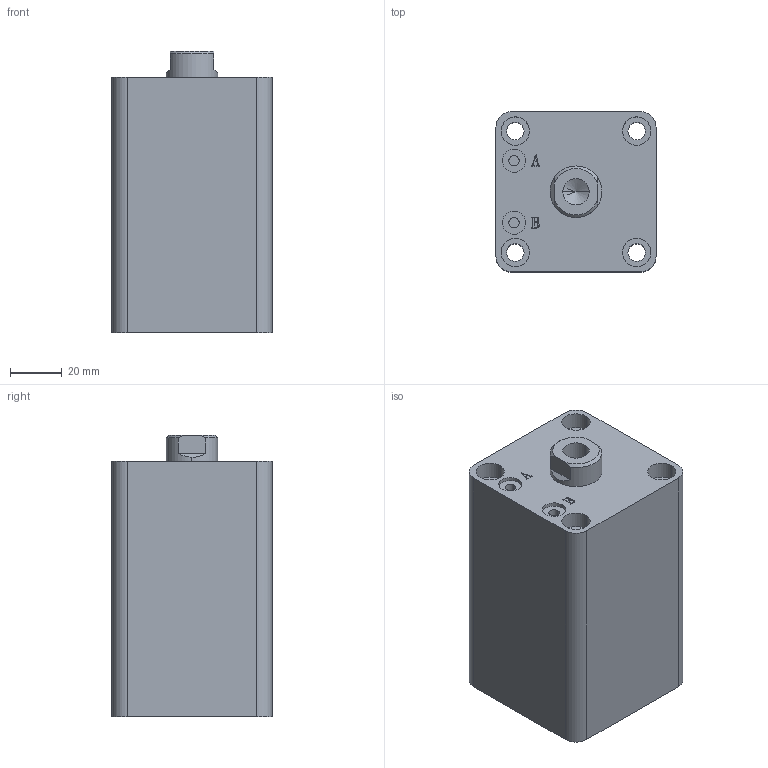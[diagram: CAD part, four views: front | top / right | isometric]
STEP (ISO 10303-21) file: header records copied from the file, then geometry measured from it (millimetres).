
FILE_DESCRIPTION (( 'STEP AP203' ), '1' );
FILE_NAME ('HTB-SDMA32-45N.STEP', '2019-10-07T11:41:01', ( '微软用户' ), ( '微软中国' ), 'SwSTEP 2.0', 'SolidWorks 2012', '' );
FILE_SCHEMA (( 'CONFIG_CONTROL_DESIGN' ));
Length unit declared in the file: millimetre
Products named in the file (3): HTB-SDMA32-45N; HTB-SDMA32-45N活塞杆; HTB-SDMA32-45掛极
Assembly tree (2 placements, depth 2):
  HTB-SDMA32-45N
    HTB-SDMA32-45掛极
    HTB-SDMA32-45N活塞杆
Bounding box: 62 x 62 x 109 mm (x, y, z)
Volume: 339017.8 mm3; surface area: 58334.6 mm2
Topology: 2 solids, 2 shells, 137 faces, 331 edges, 217 vertices
Faces by surface type: plane 65, cylinder 46, bspline 16, torus 6, cone 4
Entity records: 5070 total; most frequent: CARTESIAN_POINT 1576, ORIENTED_EDGE 658, DIRECTION 647, EDGE_CURVE 329, AXIS2_PLACEMENT_3D 232, VERTEX_POINT 217, VECTOR 183, LINE 183
